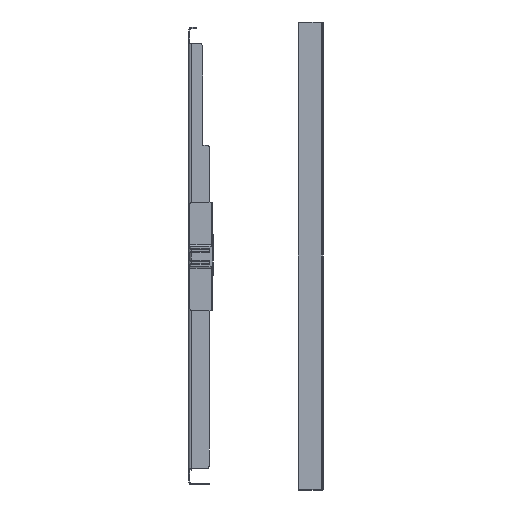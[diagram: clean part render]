
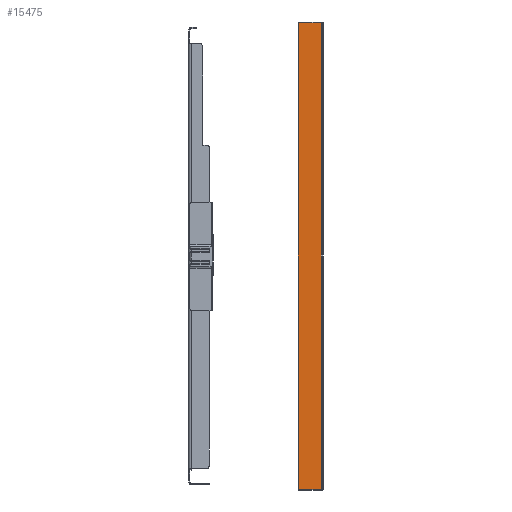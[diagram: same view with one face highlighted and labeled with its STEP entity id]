
A CAD part, left-side view. The second image highlights one B-rep face of the part: STEP entity #15475.
In plain terms, the highlighted planar face has unit normal (-1, 0, 0).
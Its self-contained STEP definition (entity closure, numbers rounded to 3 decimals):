
#1855 = PLANE ( 'NONE',  #41395 ) ;
#2273 = CARTESIAN_POINT ( 'NONE',  ( -100., 15., -150. ) ) ;
#3358 = CARTESIAN_POINT ( 'NONE',  ( -100., 0., -149.5 ) ) ;
#6338 = DIRECTION ( 'NONE',  ( 0., 0., -1. ) ) ;
#7438 = EDGE_CURVE ( 'NONE', #13302, #36480, #33500, .T. ) ;
#8662 = ORIENTED_EDGE ( 'NONE', *, *, #34689, .T. ) ;
#8928 = VECTOR ( 'NONE', #13320, 1000. ) ;
#11698 = CARTESIAN_POINT ( 'NONE',  ( -100., 14.636, -149.5 ) ) ;
#12281 = CARTESIAN_POINT ( 'NONE',  ( -100., 0., 149.5 ) ) ;
#12300 = LINE ( 'NONE', #15337, #22483 ) ;
#13302 = VERTEX_POINT ( 'NONE', #12281 ) ;
#13320 = DIRECTION ( 'NONE',  ( 0., 0., -1. ) ) ;
#15337 = CARTESIAN_POINT ( 'NONE',  ( -100., 0., -150. ) ) ;
#15475 = ADVANCED_FACE ( 'NONE', ( #41934 ), #1855, .F. ) ;
#16561 = CARTESIAN_POINT ( 'NONE',  ( -100., 14.636, -150. ) ) ;
#17271 = CARTESIAN_POINT ( 'NONE',  ( -100., 15., -149.5 ) ) ;
#17490 = DIRECTION ( 'NONE',  ( 0., 1., 0. ) ) ;
#17838 = ORIENTED_EDGE ( 'NONE', *, *, #23630, .T. ) ;
#19901 = VECTOR ( 'NONE', #30461, 1000. ) ;
#22483 = VECTOR ( 'NONE', #29370, 1000. ) ;
#22981 = ORIENTED_EDGE ( 'NONE', *, *, #7438, .T. ) ;
#23341 = CARTESIAN_POINT ( 'NONE',  ( -100., 15., 149.5 ) ) ;
#23630 = EDGE_CURVE ( 'NONE', #23747, #13302, #12300, .T. ) ;
#23747 = VERTEX_POINT ( 'NONE', #3358 ) ;
#24104 = CARTESIAN_POINT ( 'NONE',  ( -100., 14.636, 149.5 ) ) ;
#27841 = EDGE_CURVE ( 'NONE', #36480, #32606, #29118, .T. ) ;
#29118 = LINE ( 'NONE', #16561, #8928 ) ;
#29370 = DIRECTION ( 'NONE',  ( 0., 0., 1. ) ) ;
#30461 = DIRECTION ( 'NONE',  ( 0., -1., 0. ) ) ;
#30974 = EDGE_LOOP ( 'NONE', ( #17838, #22981, #41574, #8662 ) ) ;
#31556 = DIRECTION ( 'NONE',  ( 1., 0., 0. ) ) ;
#32606 = VERTEX_POINT ( 'NONE', #11698 ) ;
#33500 = LINE ( 'NONE', #23341, #35014 ) ;
#34109 = LINE ( 'NONE', #17271, #19901 ) ;
#34689 = EDGE_CURVE ( 'NONE', #32606, #23747, #34109, .T. ) ;
#35014 = VECTOR ( 'NONE', #17490, 1000. ) ;
#36480 = VERTEX_POINT ( 'NONE', #24104 ) ;
#41395 = AXIS2_PLACEMENT_3D ( 'NONE', #2273, #31556, #6338 ) ;
#41574 = ORIENTED_EDGE ( 'NONE', *, *, #27841, .T. ) ;
#41934 = FACE_OUTER_BOUND ( 'NONE', #30974, .T. ) ;
